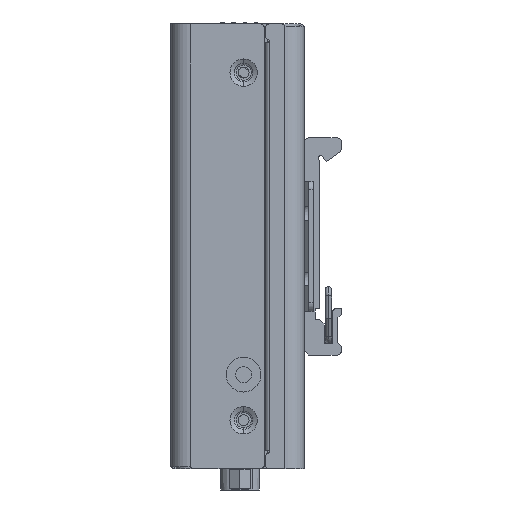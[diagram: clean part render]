
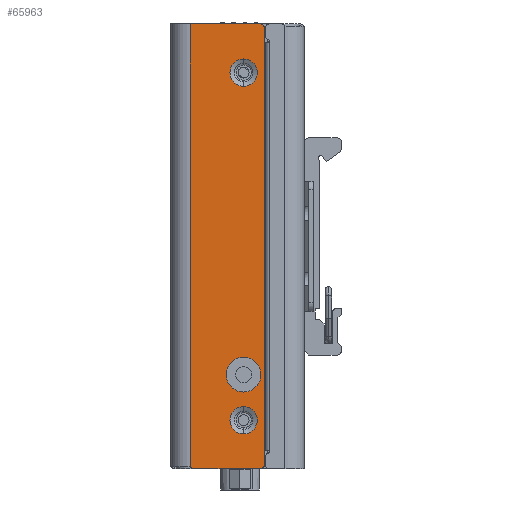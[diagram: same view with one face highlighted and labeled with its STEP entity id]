
A CAD part, left-side view. The second image highlights one B-rep face of the part: STEP entity #65963.
In plain terms, the highlighted planar face has unit normal (-1, 0, 0) as drawn and (1, 0, 0) by its records, which use the part's own axes.
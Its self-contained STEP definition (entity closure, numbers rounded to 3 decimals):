
#61635=CARTESIAN_POINT('',(79.,5.366,-50.2));
#61636=DIRECTION('',(-1.,0.,0.));
#61637=DIRECTION('',(0.,0.,-1.));
#61638=AXIS2_PLACEMENT_3D('',#61635,#61636,#61637);
#61643=CARTESIAN_POINT('',(79.,20.6,50.2));
#61644=DIRECTION('',(-1.,0.,0.));
#61645=DIRECTION('',(0.,0.,1.));
#61646=AXIS2_PLACEMENT_3D('',#61643,#61644,#61645);
#61651=CARTESIAN_POINT('',(79.,20.6,-50.2));
#61652=DIRECTION('',(-1.,0.,0.));
#61653=DIRECTION('',(0.,1.,0.));
#61654=AXIS2_PLACEMENT_3D('',#61651,#61652,#61653);
#61659=CARTESIAN_POINT('',(79.,16.8,-40.));
#61660=DIRECTION('',(1.,0.,0.));
#61661=DIRECTION('',(0.,0.,1.));
#61662=AXIS2_PLACEMENT_3D('',#61659,#61660,#61661);
#61667=CARTESIAN_POINT('',(79.,16.8,-40.));
#61668=DIRECTION('',(1.,0.,0.));
#61669=DIRECTION('',(0.,0.,-1.));
#61670=AXIS2_PLACEMENT_3D('',#61667,#61668,#61669);
#61675=CARTESIAN_POINT('',(79.,16.8,40.));
#61676=DIRECTION('',(1.,0.,0.));
#61677=DIRECTION('',(0.,0.,1.));
#61678=AXIS2_PLACEMENT_3D('',#61675,#61676,#61677);
#61683=CARTESIAN_POINT('',(79.,16.8,40.));
#61684=DIRECTION('',(1.,0.,0.));
#61685=DIRECTION('',(0.,0.,-1.));
#61686=AXIS2_PLACEMENT_3D('',#61683,#61684,#61685);
#61691=CARTESIAN_POINT('',(79.,16.8,-29.5));
#61692=DIRECTION('',(1.,0.,0.));
#61693=DIRECTION('',(0.,0.,-1.));
#61694=AXIS2_PLACEMENT_3D('',#61691,#61692,#61693);
#61699=CARTESIAN_POINT('',(79.,16.8,-29.5));
#61700=DIRECTION('',(1.,0.,0.));
#61701=DIRECTION('',(0.,0.,1.));
#61702=AXIS2_PLACEMENT_3D('',#61699,#61700,#61701);
#61714=DIRECTION('',(0.,0.,-1.));
#61715=VECTOR('',#61714,101.9);
#61716=CARTESIAN_POINT('',(79.,4.5,51.2));
#61717=LINE('',#61716,#61715);
#64560=DIRECTION('',(0.,1.,0.));
#64561=VECTOR('',#64560,15.234);
#64562=CARTESIAN_POINT('',(79.,5.366,-51.2));
#64563=LINE('',#64562,#64561);
#64581=DIRECTION('',(0.,0.,1.));
#64582=VECTOR('',#64581,100.4);
#64583=CARTESIAN_POINT('',(79.,21.6,-50.2));
#64584=LINE('',#64583,#64582);
#64602=DIRECTION('',(0.,-1.,0.));
#64603=VECTOR('',#64602,16.1);
#64604=CARTESIAN_POINT('',(79.,20.6,51.2));
#64605=LINE('',#64604,#64603);
#65227=CARTESIAN_POINT('',(79.,4.5,-50.7));
#65229=VERTEX_POINT('',#65227);
#65230=CARTESIAN_POINT('',(79.,5.366,-51.2));
#65231=VERTEX_POINT('',#65230);
#65234=CARTESIAN_POINT('',(79.,4.5,51.2));
#65235=VERTEX_POINT('',#65234);
#65236=CARTESIAN_POINT('',(79.,20.6,51.2));
#65237=VERTEX_POINT('',#65236);
#65238=CARTESIAN_POINT('',(79.,21.6,50.2));
#65239=VERTEX_POINT('',#65238);
#65240=CARTESIAN_POINT('',(79.,21.6,-50.2));
#65241=VERTEX_POINT('',#65240);
#65242=CARTESIAN_POINT('',(79.,20.6,-51.2));
#65243=VERTEX_POINT('',#65242);
#65244=CARTESIAN_POINT('',(79.,16.8,-36.864));
#65245=CARTESIAN_POINT('',(79.,16.8,-43.136));
#65246=VERTEX_POINT('',#65244);
#65247=VERTEX_POINT('',#65245);
#65248=CARTESIAN_POINT('',(79.,16.8,43.136));
#65249=CARTESIAN_POINT('',(79.,16.8,36.864));
#65250=VERTEX_POINT('',#65248);
#65251=VERTEX_POINT('',#65249);
#65252=CARTESIAN_POINT('',(79.,16.8,-32.2));
#65253=CARTESIAN_POINT('',(79.,16.8,-26.8));
#65254=VERTEX_POINT('',#65252);
#65255=VERTEX_POINT('',#65253);
#65925=CARTESIAN_POINT('',(79.,0.,-51.2));
#65926=DIRECTION('',(1.,0.,0.));
#65927=DIRECTION('',(0.,0.,-1.));
#65928=AXIS2_PLACEMENT_3D('',#65925,#65926,#65927);
#65929=PLANE('',#65928);
#65930=ORIENTED_EDGE('',*,*,#65915,.T.);
#65932=ORIENTED_EDGE('',*,*,#65931,.F.);
#65934=ORIENTED_EDGE('',*,*,#65933,.F.);
#65936=ORIENTED_EDGE('',*,*,#65935,.T.);
#65938=ORIENTED_EDGE('',*,*,#65937,.F.);
#65940=ORIENTED_EDGE('',*,*,#65939,.T.);
#65942=ORIENTED_EDGE('',*,*,#65941,.F.);
#65943=EDGE_LOOP('',(#65930,#65932,#65934,#65936,#65938,#65940,#65942));
#65944=FACE_OUTER_BOUND('',#65943,.F.);
#65946=ORIENTED_EDGE('',*,*,#65945,.T.);
#65948=ORIENTED_EDGE('',*,*,#65947,.T.);
#65949=EDGE_LOOP('',(#65946,#65948));
#65950=FACE_BOUND('',#65949,.F.);
#65952=ORIENTED_EDGE('',*,*,#65951,.T.);
#65954=ORIENTED_EDGE('',*,*,#65953,.T.);
#65955=EDGE_LOOP('',(#65952,#65954));
#65956=FACE_BOUND('',#65955,.F.);
#65958=ORIENTED_EDGE('',*,*,#65957,.T.);
#65960=ORIENTED_EDGE('',*,*,#65959,.T.);
#65961=EDGE_LOOP('',(#65958,#65960));
#65962=FACE_BOUND('',#65961,.F.);
#61639=CIRCLE('',#61638,1.);
#61647=CIRCLE('',#61646,1.);
#61655=CIRCLE('',#61654,1.);
#61663=CIRCLE('',#61662,3.136);
#61671=CIRCLE('',#61670,3.136);
#61679=CIRCLE('',#61678,3.136);
#61687=CIRCLE('',#61686,3.136);
#61695=CIRCLE('',#61694,2.7);
#61703=CIRCLE('',#61702,2.7);
#65915=EDGE_CURVE('',#65231,#65229,#61639,.T.);
#65931=EDGE_CURVE('',#65235,#65229,#61717,.T.);
#65933=EDGE_CURVE('',#65237,#65235,#64605,.T.);
#65935=EDGE_CURVE('',#65237,#65239,#61647,.T.);
#65937=EDGE_CURVE('',#65241,#65239,#64584,.T.);
#65939=EDGE_CURVE('',#65241,#65243,#61655,.T.);
#65941=EDGE_CURVE('',#65231,#65243,#64563,.T.);
#65945=EDGE_CURVE('',#65246,#65247,#61663,.T.);
#65947=EDGE_CURVE('',#65247,#65246,#61671,.T.);
#65951=EDGE_CURVE('',#65250,#65251,#61679,.T.);
#65953=EDGE_CURVE('',#65251,#65250,#61687,.T.);
#65957=EDGE_CURVE('',#65254,#65255,#61695,.T.);
#65959=EDGE_CURVE('',#65255,#65254,#61703,.T.);
#65963=ADVANCED_FACE('',(#65944,#65950,#65956,#65962),#65929,.T.);
